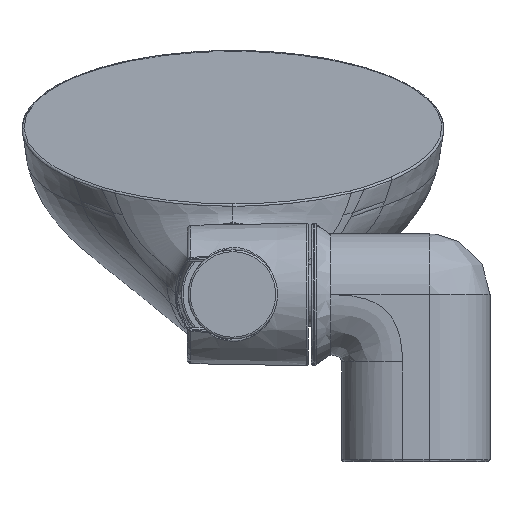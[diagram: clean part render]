
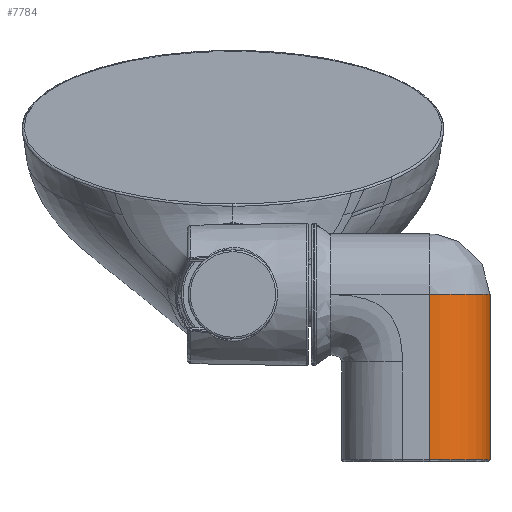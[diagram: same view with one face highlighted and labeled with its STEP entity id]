
A CAD part, front view. The second image highlights one B-rep face of the part: STEP entity #7784.
In plain terms, the highlighted cylindrical face has radius 15.85 mm (diameter 31.7 mm), a partial arc.
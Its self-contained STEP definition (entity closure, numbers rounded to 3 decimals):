
#712 = ORIENTED_EDGE ( 'NONE', *, *, #19315, .T. ) ;
#1473 = CARTESIAN_POINT ( 'NONE',  ( 22.85, 71.804, 37.144 ) ) ;
#2410 = AXIS2_PLACEMENT_3D ( 'NONE', #24032, #12606, #24369 ) ;
#2771 = DIRECTION ( 'NONE',  ( 1., 0., 0. ) ) ;
#2960 = FACE_OUTER_BOUND ( 'NONE', #11382, .T. ) ;
#3065 = VECTOR ( 'NONE', #14673, 1000. ) ;
#3902 = CARTESIAN_POINT ( 'NONE',  ( 7., 55.954, 37.144 ) ) ;
#4513 = CARTESIAN_POINT ( 'NONE',  ( 22.85, 71.804, -5.856 ) ) ;
#5099 = CIRCLE ( 'NONE', #2410, 15.85 ) ;
#5344 = EDGE_CURVE ( 'NONE', #13627, #6430, #24628, .T. ) ;
#5446 = DIRECTION ( 'NONE',  ( 1., 0., 0. ) ) ;
#6430 = VERTEX_POINT ( 'NONE', #4513 ) ;
#7225 = AXIS2_PLACEMENT_3D ( 'NONE', #10395, #10482, #2771 ) ;
#7258 = EDGE_CURVE ( 'NONE', #17174, #6430, #5099, .T. ) ;
#7784 = ADVANCED_FACE ( 'NONE', ( #2960 ), #15320, .T. ) ;
#8410 = CARTESIAN_POINT ( 'NONE',  ( 22.85, 71.804, 37.144 ) ) ;
#10395 = CARTESIAN_POINT ( 'NONE',  ( 7., 71.804, 37.144 ) ) ;
#10482 = DIRECTION ( 'NONE',  ( 0., 0., -1. ) ) ;
#10797 = CARTESIAN_POINT ( 'NONE',  ( 7., 55.954, 37.144 ) ) ;
#11382 = EDGE_LOOP ( 'NONE', ( #13504, #712, #13490, #16448 ) ) ;
#12606 = DIRECTION ( 'NONE',  ( 0., 0., 1. ) ) ;
#12958 = LINE ( 'NONE', #10797, #3065 ) ;
#13408 = DIRECTION ( 'NONE',  ( 0., 0., -1. ) ) ;
#13490 = ORIENTED_EDGE ( 'NONE', *, *, #24609, .T. ) ;
#13504 = ORIENTED_EDGE ( 'NONE', *, *, #5344, .F. ) ;
#13627 = VERTEX_POINT ( 'NONE', #1473 ) ;
#14673 = DIRECTION ( 'NONE',  ( 0., 0., -1. ) ) ;
#15320 = CYLINDRICAL_SURFACE ( 'NONE', #7225, 15.85 ) ;
#16038 = DIRECTION ( 'NONE',  ( 0., 0., -1. ) ) ;
#16448 = ORIENTED_EDGE ( 'NONE', *, *, #7258, .T. ) ;
#16804 = VECTOR ( 'NONE', #16038, 1000. ) ;
#17174 = VERTEX_POINT ( 'NONE', #18472 ) ;
#18472 = CARTESIAN_POINT ( 'NONE',  ( 7., 55.954, -5.856 ) ) ;
#19111 = CIRCLE ( 'NONE', #22261, 15.85 ) ;
#19315 = EDGE_CURVE ( 'NONE', #13627, #22085, #19111, .T. ) ;
#22085 = VERTEX_POINT ( 'NONE', #3902 ) ;
#22261 = AXIS2_PLACEMENT_3D ( 'NONE', #24907, #13408, #5446 ) ;
#24032 = CARTESIAN_POINT ( 'NONE',  ( 7., 71.804, -5.856 ) ) ;
#24369 = DIRECTION ( 'NONE',  ( 1., 0., 0. ) ) ;
#24609 = EDGE_CURVE ( 'NONE', #22085, #17174, #12958, .T. ) ;
#24628 = LINE ( 'NONE', #8410, #16804 ) ;
#24907 = CARTESIAN_POINT ( 'NONE',  ( 7., 71.804, 37.144 ) ) ;
